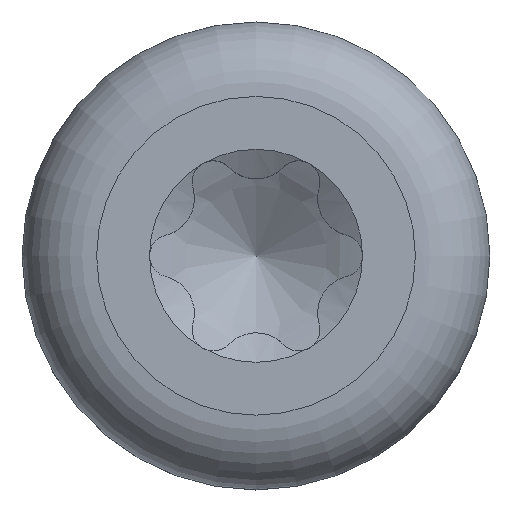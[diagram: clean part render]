
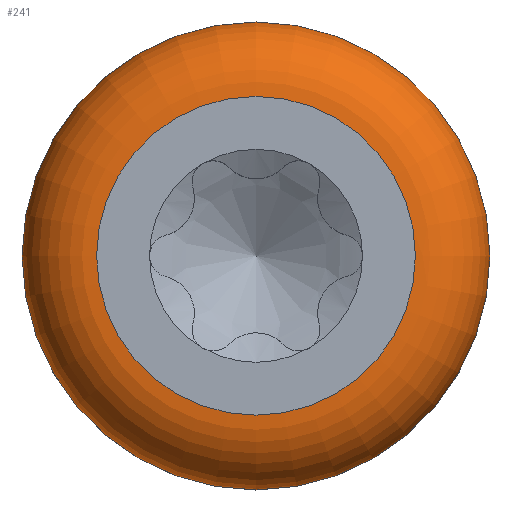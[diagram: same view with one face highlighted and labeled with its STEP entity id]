
A CAD part, top view. The second image highlights one B-rep face of the part: STEP entity #241.
In plain terms, the highlighted toroidal (fillet/blend) face has major radius 4.19 mm and minor radius 1.96 mm.
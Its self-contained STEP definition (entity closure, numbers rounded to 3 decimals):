
#210=TOROIDAL_SURFACE('',#1242,4.19,1.96);
#221=FACE_BOUND('',#402,.T.);
#222=FACE_BOUND('',#403,.T.);
#241=ADVANCED_FACE('',(#221,#222),#210,.T.);
#402=EDGE_LOOP('',(#545));
#403=EDGE_LOOP('',(#546));
#487=CIRCLE('',#1239,6.15);
#488=CIRCLE('',#1241,4.19);
#545=ORIENTED_EDGE('',*,*,#992,.F.);
#546=ORIENTED_EDGE('',*,*,#991,.T.);
#881=VERTEX_POINT('',#2546);
#882=VERTEX_POINT('',#2549);
#991=EDGE_CURVE('',#881,#881,#487,.T.);
#992=EDGE_CURVE('',#882,#882,#488,.T.);
#1239=AXIS2_PLACEMENT_3D('',#2545,#1307,#1308);
#1241=AXIS2_PLACEMENT_3D('',#2548,#1311,#1312);
#1242=AXIS2_PLACEMENT_3D('',#2550,#1313,#1314);
#1307=DIRECTION('',(0.,0.,1.));
#1308=DIRECTION('',(1.,0.,0.));
#1311=DIRECTION('',(0.,0.,1.));
#1312=DIRECTION('',(1.,0.,0.));
#1313=DIRECTION('',(0.,0.,1.));
#1314=DIRECTION('',(1.,0.,0.));
#2545=CARTESIAN_POINT('',(0.,0.,2.94));
#2546=CARTESIAN_POINT('',(6.15,0.,2.94));
#2548=CARTESIAN_POINT('',(0.,0.,4.9));
#2549=CARTESIAN_POINT('',(4.19,0.,4.9));
#2550=CARTESIAN_POINT('',(0.,0.,2.94));
